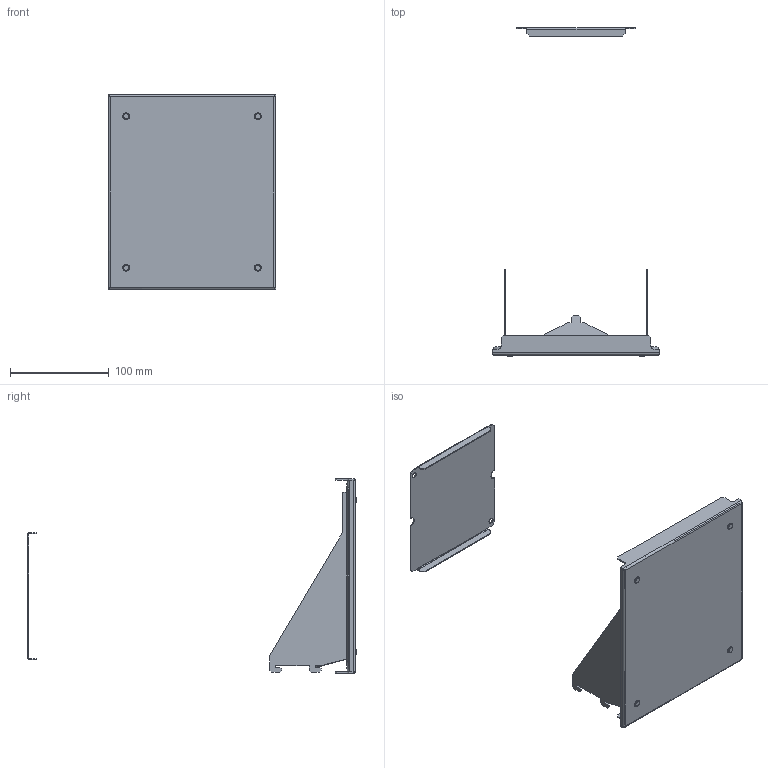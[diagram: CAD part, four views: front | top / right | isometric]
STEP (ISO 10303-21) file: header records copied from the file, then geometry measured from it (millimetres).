
FILE_DESCRIPTION(('CAx-IF Rec.Pracs.---Model Styling and Organization---1.2---2011-12-15','CAx-IF Rec.Pracs.---Geometric and Assembly Validation Properties---4.1---2014-06-16','CAx-IF Rec.Pracs.---PMI Polyline Presentation---2.0---2013-05-24'),'2;1');
FILE_NAME('R5M2W4M3BS.stp','2021-05-05T12:24:03+03:00',(''),(''),'STEP Interface 4.4 by CT CoreTechnologie','3D_Evolution4.4 by CT CoreTechnologie','');
FILE_SCHEMA(('AUTOMOTIVE_DESIGN { 1 0 10303 214 1 1 1 1 }'));
Length unit declared in the file: millimetre
Products named in the file (9): R5M2W4M3BS; 5-GOST 11371-78 (DIN 125) PA 6.6_5-GOST 11371-78 (DIN 125) PA 6.6; RB.1235.00.00.0 ÑÁ_-02; RB.1235.00.01.0_-02; PF 7x14 RAMmcc 2.0_1x3_; Ì6õ12-A5100231_straight; AC00C061_AC00C061; RB.1256.00.00.0_-00; RB.1237.00.00.0_-02
Assembly tree (11 placements, depth 3):
  R5M2W4M3BS
    5-GOST 11371-78 (DIN 125) PA 6.6_5-GOST 11371-78 (DIN 125) PA 6.6  x4
    RB.1235.00.00.0 ÑÁ_-02
      RB.1235.00.01.0_-02
      PF 7x14 RAMmcc 2.0_1x3_
      Ì6õ12-A5100231_straight
      AC00C061_AC00C061
    RB.1256.00.00.0_-00
    RB.1237.00.00.0_-02
Bounding box: 169.5 x 332 x 197 mm (x, y, z)
Surface area: 186487.9 mm2 (no closed solid volume)
Topology: 0 solids, 14 shells, 253 faces, 640 edges, 411 vertices
Faces by surface type: plane 172, cylinder 69, bspline 12
Entity records: 8186 total; most frequent: CARTESIAN_POINT 1824, ORIENTED_EDGE 1236, DIRECTION 1202, EDGE_CURVE 618, VECTOR 472, LINE 472, VERTEX_POINT 399, AXIS2_PLACEMENT_3D 365
